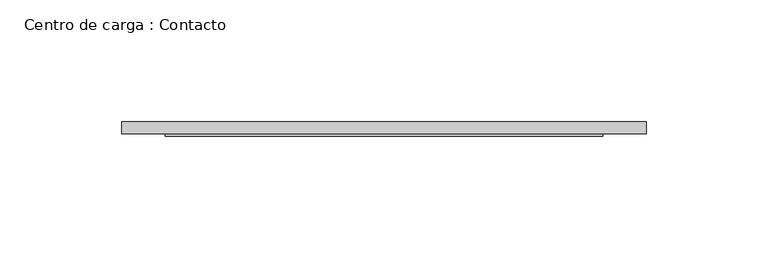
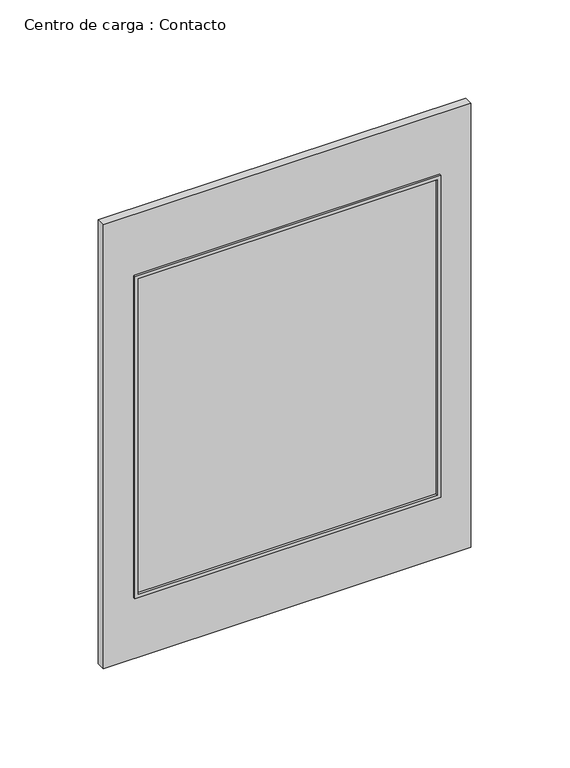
"""IFC4 building model written with IfcOpenShell, lengths in millimetres: proxy geometry, Centro de carga : Contacto."""

from ifc_helpers import new_model, si_unit, frame, origin, place, context, project, spatial, polyline, outline, extrude, source, transform, mapped, element, save


def centro_de_carga_contacto_d23e9f52(model_context):
    return source(origin(), model_context, "Body", "SweptSolid", [
        extrude(outline(polyline([(1338.0, 215.0), (1338.0, 35.0), (1138.0, 35.0), (1138.0, 215.0), (1338.0, 215.0)]), holes=[polyline([(1140.0, 213.0), (1140.0, 37.0), (1336.0, 37.0), (1336.0, 213.0), (1140.0, 213.0)])]), frame((0.0, -80.9684395, 0.0), z_axis=(0.0, 1.0, 0.0), x_axis=(0.0, 0.0, 1.0)), (0.0, 0.0, 1.0), 4.7658788),
        extrude(outline(polyline([(17.0, -80.0), (17.0, -75.0), (233.0, -75.0), (233.0, -80.0), (17.0, -80.0)])), frame((0.0, 0.0, 1100.0), z_axis=(0.0, 0.0, 1.0), x_axis=(1.0, 0.0, 0.0)), (0.0, 0.0, 1.0), 276.0),
    ])


if __name__ == "__main__":
    model = new_model("IFC4")
    model_context = context("Model", 3, world=origin())
    ifc_project = project(units=[si_unit("LENGTHUNIT", "METRE", prefix="MILLI")], contexts=[model_context])
    site = spatial("IfcSite", under=ifc_project)
    building = spatial("IfcBuilding", under=site)
    placement = place(None, origin())
    centro_de_carga_contacto_shape = centro_de_carga_contacto_d23e9f52(model_context)
    element("IfcBuildingElementProxy", 1, Name="Centro de carga : Contacto", ObjectType="Centro de carga : Contacto", at=placement, inside=building, context=model_context, shape_type="MappedRepresentation", body=[
        mapped(centro_de_carga_contacto_shape, transform((0.0, 0.0, 0.0), x_axis=(1.0, 0.0, 0.0), y_axis=(0.0, 1.0, 0.0), z_axis=(0.0, 0.0, 1.0))),
    ])
    save(model, "model.ifc")
